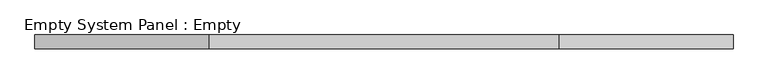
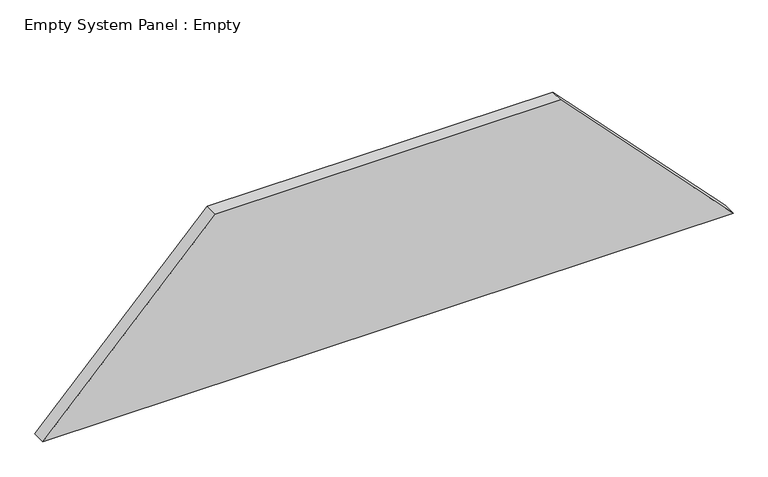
"""IFC4 building model written with IfcOpenShell, lengths in millimetres: plate geometry, Empty System Panel : Empty."""

import ifcopenshell
import ifcopenshell.guid

model = None  # the IFC model being written
_history = None  # IfcOwnerHistory: only IFC2X3 demands one
_inside = {}  # id of a spatial element -> (the spatial element, [elements in it])
_under = {}  # id of a project, library or spatial element -> (it, [spatial elements below it])
_declared = {}  # id of a project -> (the project, [libraries it declares])
_typed = {}  # id of a type object -> (the type object, [elements of that type])
_made_of = {}  # id of a material, layer set ... -> (it, [elements and type objects made of it])


def new_model(schema):
    """Start an empty IFC model of exactly this schema.

    Asked for "IFC4X3", IfcOpenShell would pick the latest addendum, in which some entities
    have other attributes; the version numbers below select the first issue.
    IFC2X3 requires an IfcOwnerHistory on every rooted entity: one is made here for all.
    """
    global model, _history
    if schema == "IFC4X3":
        model = ifcopenshell.file(schema_version=(4, 3, 0, 0))
    else:
        model = ifcopenshell.file(schema=schema)
    _inside.clear()
    _under.clear()
    _declared.clear()
    _typed.clear()
    _made_of.clear()
    _history = None
    if model.schema == "IFC2X3":
        org = make("IfcOrganization", Name="unknown")
        user = make(
            "IfcPersonAndOrganization",
            ThePerson=make("IfcPerson", FamilyName="unknown"),
            TheOrganization=org,
        )
        app = make(
            "IfcApplication",
            ApplicationDeveloper=org,
            Version="unknown",
            ApplicationFullName="unknown",
            ApplicationIdentifier="unknown",
        )
        _history = make(
            "IfcOwnerHistory",
            OwningUser=user,
            OwningApplication=app,
            ChangeAction="ADDED",
            CreationDate=0,
        )
    return model


def make(cls, **values):
    """One entity of the class cls with the attributes given. An attribute that is None is left unset."""
    return model.create_entity(
        cls, **{name: value for name, value in values.items() if value is not None}
    )


def rooted(cls, **values):
    """An entity with a GlobalId (a new one), such as an element, a storey or a relation."""
    return make(cls, GlobalId=ifcopenshell.guid.new(), OwnerHistory=_history, **values)


def si_unit(unit_type, name, prefix=None):
    """IfcSIUnit, for example si_unit("LENGTHUNIT", "METRE", prefix="MILLI")."""
    return make("IfcSIUnit", UnitType=unit_type, Prefix=prefix, Name=name)


def assignment(units):
    """IfcUnitAssignment: the units of a project."""
    return None if units is None else make("IfcUnitAssignment", Units=units)


def point(xyz):
    """IfcCartesianPoint."""
    return None if xyz is None else make("IfcCartesianPoint", Coordinates=xyz)


def direction(xyz):
    """IfcDirection."""
    return None if xyz is None else make("IfcDirection", DirectionRatios=xyz)


def frame(location, z_axis=None, x_axis=None):
    """IfcAxis2Placement3D, a coordinate frame: its origin and axes. An axis left out is left unset."""
    return make(
        "IfcAxis2Placement3D",
        Location=point(location),
        Axis=direction(z_axis),
        RefDirection=direction(x_axis),
    )


def origin():
    """The frame at (0, 0, 0) with its axes left unset."""
    return frame((0.0, 0.0, 0.0))


def place(relative_to, where):
    """IfcLocalPlacement: puts the frame where relative to a parent placement (None: the world)."""
    return make(
        "IfcLocalPlacement", PlacementRelTo=relative_to, RelativePlacement=where
    )


def context(
    kind, dimensions, precision=None, world=None, true_north=None, identifier=None
):
    """IfcGeometricRepresentationContext, for example the 3D "Model" context."""
    return make(
        "IfcGeometricRepresentationContext",
        ContextIdentifier=identifier,
        ContextType=kind,
        CoordinateSpaceDimension=dimensions,
        Precision=precision,
        WorldCoordinateSystem=world,
        TrueNorth=true_north,
    )


def project(units=None, contexts=None):
    """IfcProject with its units and contexts."""
    return rooted(
        "IfcProject",
        Name="project",
        RepresentationContexts=contexts,
        UnitsInContext=assignment(units),
    )


def spatial(cls, under=None, at=None, **own):
    """A site, building, storey or space (cls), placed at a placement, below another one or the project."""
    s = rooted(cls, ObjectPlacement=at, **own)
    if under is not None:
        _under.setdefault(under.id(), (under, []))[1].append(s)
    return s


def polyline(points):
    """IfcPolyline through the points."""
    return make("IfcPolyline", Points=[point(p) for p in points])


def outline(outer, holes=None, kind="AREA"):
    """IfcArbitraryClosedProfileDef: a profile drawn as a closed curve; with holes, ...WithVoids."""
    if holes is None:
        return make("IfcArbitraryClosedProfileDef", ProfileType=kind, OuterCurve=outer)
    return make(
        "IfcArbitraryProfileDefWithVoids",
        ProfileType=kind,
        OuterCurve=outer,
        InnerCurves=holes,
    )


def extrude(swept, where, along, depth):
    """IfcExtrudedAreaSolid: the profile swept, set in the frame where, extruded along a direction by depth."""
    return make(
        "IfcExtrudedAreaSolid",
        SweptArea=swept,
        Position=where,
        ExtrudedDirection=direction(along),
        Depth=depth,
    )


def shape(context_of_items, identifier, shape_type, items):
    """IfcShapeRepresentation: the items that make up one representation, for example the "Body"."""
    return make(
        "IfcShapeRepresentation",
        ContextOfItems=context_of_items,
        RepresentationIdentifier=identifier,
        RepresentationType=shape_type,
        Items=items,
    )


def source(mapping_origin, context_of_items, identifier, shape_type, items):
    """IfcRepresentationMap: a shape defined once, which mapped items show again and again."""
    return make(
        "IfcRepresentationMap",
        MappingOrigin=mapping_origin,
        MappedRepresentation=shape(context_of_items, identifier, shape_type, items),
    )


def transform(
    local_origin,
    x_axis=None,
    y_axis=None,
    z_axis=None,
    scale=None,
    scale2=None,
    scale3=None,
    uniform=True,
):
    """IfcCartesianTransformationOperator3D, or its non-uniform kind. x_axis, y_axis, z_axis: its Axis1, 2, 3."""
    if uniform:
        return make(
            "IfcCartesianTransformationOperator3D",
            Axis1=direction(x_axis),
            Axis2=direction(y_axis),
            LocalOrigin=point(local_origin),
            Scale=scale,
            Axis3=direction(z_axis),
        )
    return make(
        "IfcCartesianTransformationOperator3DnonUniform",
        Axis1=direction(x_axis),
        Axis2=direction(y_axis),
        LocalOrigin=point(local_origin),
        Scale=scale,
        Axis3=direction(z_axis),
        Scale2=scale2,
        Scale3=scale3,
    )


def mapped(mapping_source, mapping_target):
    """IfcMappedItem: shows the shape of a source again, moved by a transform."""
    return make(
        "IfcMappedItem", MappingSource=mapping_source, MappingTarget=mapping_target
    )


def made_of(thing, what):
    """Note that an element or type object is made of a material, layer set ...; save() writes the relation."""
    if what is not None:
        _made_of.setdefault(what.id(), (what, []))[1].append(thing)
    return thing


def element(
    cls,
    number,
    at=None,
    inside=None,
    cuts=None,
    type_object=None,
    material=None,
    context=None,
    identifier="Body",
    shape_type=None,
    held_by="IfcProductDefinitionShape",
    body=None,
    shapes=None,
    **own,
):
    """One element of the class cls, such as IfcWall. Its Tag is "e" and its number.

    at: its placement. inside: the storey or other place that contains it. cuts: it is an
    opening in that element (IfcRelVoidsElement). A single representation is given by context,
    identifier, shape_type and body (its items); several are given by shapes. held_by: the class
    of the entity that holds the representations. save() writes the other relations.
    """
    e = rooted(cls, Tag="e%d" % number, ObjectPlacement=at, **own)
    if body is not None:
        shapes = [shape(context, identifier, shape_type, body)]
    if shapes is not None:
        e.Representation = make(held_by, Representations=shapes)
    if inside is not None:
        _inside.setdefault(inside.id(), (inside, []))[1].append(e)
    if cuts is not None:
        rooted(
            "IfcRelVoidsElement", RelatingBuildingElement=cuts, RelatedOpeningElement=e
        )
    if type_object is not None:
        _typed.setdefault(type_object.id(), (type_object, []))[1].append(e)
    return made_of(e, material)


def aggregate(whole, parts):
    """IfcRelAggregates: a whole, such as a stair, and the parts it consists of."""
    return rooted("IfcRelAggregates", RelatingObject=whole, RelatedObjects=parts)


def save(model, path):
    """Write the relations noted so far, then the file.

    IfcRelAggregates (storeys below a building ...), IfcRelContainedInSpatialStructure (elements
    in a storey), IfcRelDefinesByType, IfcRelAssociatesMaterial and IfcRelDeclares: one each for
    every whole, place, type object, material and project.
    """
    for whole, parts in _under.values():
        aggregate(whole, parts)
    for where, things in _inside.values():
        rooted(
            "IfcRelContainedInSpatialStructure",
            RelatedElements=things,
            RelatingStructure=where,
        )
    for kind, things in _typed.values():
        rooted("IfcRelDefinesByType", RelatedObjects=things, RelatingType=kind)
    for what, things in _made_of.values():
        rooted("IfcRelAssociatesMaterial", RelatedObjects=things, RelatingMaterial=what)
    for by, libraries in _declared.values():
        rooted("IfcRelDeclares", RelatingContext=by, RelatedDefinitions=libraries)
    model.write(path)


def empty_system_panel_empty_65b771b1(model_context):
    return source(origin(), model_context, "Body", "SweptSolid", [
        extrude(outline(polyline([(0.0, -2500.0), (0.0, 2500.0), (1305.0383136, 1250.0), (1305.0383136, -1250.0), (0.0, -2500.0)])), frame((0.0, -50.0, 0.0), z_axis=(0.0, 1.0, 0.0), x_axis=(0.0, 0.0, 1.0)), (0.0, 0.0, 1.0), 100.0),
    ])


if __name__ == "__main__":
    model = new_model("IFC4")
    model_context = context("Model", 3, world=origin())
    ifc_project = project(units=[si_unit("LENGTHUNIT", "METRE", prefix="MILLI")], contexts=[model_context])
    site = spatial("IfcSite", under=ifc_project)
    building = spatial("IfcBuilding", under=site)
    placement = place(None, origin())
    empty_system_panel_empty_shape = empty_system_panel_empty_65b771b1(model_context)
    element("IfcPlate", 1, ObjectType="Empty System Panel : Empty", at=placement, inside=building, context=model_context, shape_type="MappedRepresentation", body=[
        mapped(empty_system_panel_empty_shape, transform((0.0, 0.0, 0.0), x_axis=(1.0, 0.0, 0.0), y_axis=(0.0, 1.0, 0.0), z_axis=(0.0, 0.0, 1.0))),
    ])
    save(model, "model.ifc")
